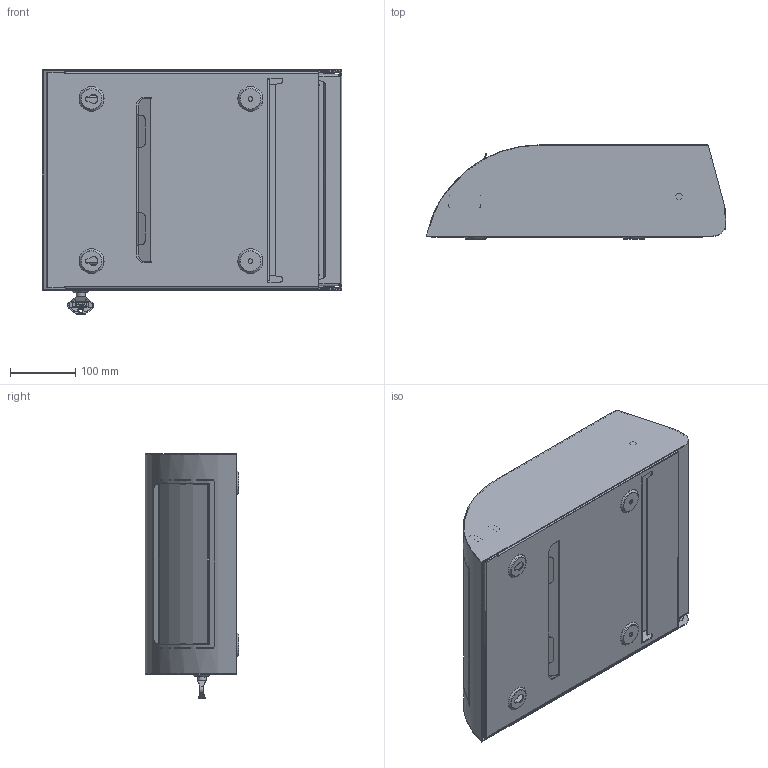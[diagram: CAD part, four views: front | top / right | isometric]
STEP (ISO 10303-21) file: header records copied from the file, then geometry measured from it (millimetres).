
FILE_DESCRIPTION((''),'2;1');
FILE_NAME('X:\Standardvarer\Affaldsbokse og hygiejneboxe\279 Dan Dryer Design Affaldsbeholder mini\Tegninger\Public 3D files\279 DAN DRYER DESIGN waste bin mini.stp','2013-12-10T13:47:10',('Dan Dryer'),(''),'Autodesk Inventor 2012','Autodesk Inventor 2012','');
FILE_SCHEMA(('AUTOMOTIVE_DESIGN { 1 0 10303 214 1 1 1 1 }'));
Length unit declared in the file: millimetre
Products named in the file (20): 279-slet; 279-10; 279-11; 279-13; 279-12; 279-14; 279-16; DD-291107-50; 279-20; 279-40; 279-42; 279-43; 279-41; 279-70; 28200; 28200-2; 28200-1; 28202
Assembly tree (22 placements, depth 3):
  279-slet
    279-10
      279-11
      279-13
      279-12
      279-14
      279-16  x2
      DD-291107-50
    279-20
      279-20
    279-40
      279-42
      279-43  x2
      279-41  x2
    279-70
      279-70
    28200
      28200-2
      28200-1
    28202
Bounding box: 459.7 x 144.18 x 374.8 mm (x, y, z)
Volume: 995870.6 mm3; surface area: 1735811.3 mm2
Topology: 17 solids, 18 shells, 783 faces, 2066 edges, 1345 vertices
Faces by surface type: plane 479, cylinder 254, cone 19, bspline 18, torus 13
Full cylindrical faces by diameter (mm): 6 x1, 6.2 x6, 7 x2, 8.2 x4, 8.3 x1, 10 x3, 10.1 x2, 13.5 x1, 16.1 x1, 19.8 x1, 20 x1, 22 x1, 28 x1
Entity records: 25973 total; most frequent: CARTESIAN_POINT 6416, DIRECTION 3951, ORIENTED_EDGE 3911, EDGE_CURVE 1957, VECTOR 1351, LINE 1351, VERTEX_POINT 1302, AXIS2_PLACEMENT_3D 1300
